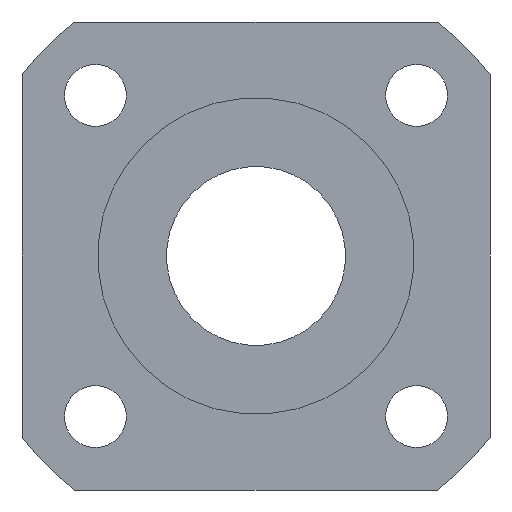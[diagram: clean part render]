
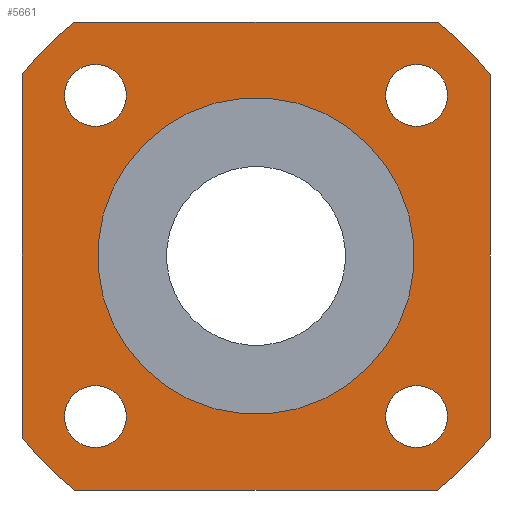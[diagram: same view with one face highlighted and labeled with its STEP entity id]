
A CAD part, left-side view. The second image highlights one B-rep face of the part: STEP entity #5661.
In plain terms, the highlighted planar face has unit normal (-1, 0, 0).
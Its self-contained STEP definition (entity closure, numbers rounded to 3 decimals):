
#109=CIRCLE('',#6005,21.5);
#110=CIRCLE('',#6007,21.5);
#111=CIRCLE('',#6009,21.5);
#121=CIRCLE('',#6024,11.5);
#123=CIRCLE('',#6029,21.5);
#124=CIRCLE('',#6031,2.25);
#125=CIRCLE('',#6032,2.25);
#126=CIRCLE('',#6033,2.25);
#127=CIRCLE('',#6034,2.25);
#334=LINE('',#8997,#1000);
#335=LINE('',#8998,#1001);
#336=LINE('',#8999,#1002);
#337=LINE('',#9000,#1003);
#1000=VECTOR('',#6579,1000.);
#1001=VECTOR('',#6580,1000.);
#1002=VECTOR('',#6581,1000.);
#1003=VECTOR('',#6582,1000.);
#1750=ORIENTED_EDGE('',*,*,#3383,.T.);
#1751=ORIENTED_EDGE('',*,*,#3363,.F.);
#1752=ORIENTED_EDGE('',*,*,#3384,.T.);
#1753=ORIENTED_EDGE('',*,*,#3366,.F.);
#1754=ORIENTED_EDGE('',*,*,#3385,.T.);
#1755=ORIENTED_EDGE('',*,*,#3380,.F.);
#1756=ORIENTED_EDGE('',*,*,#3386,.T.);
#1757=ORIENTED_EDGE('',*,*,#3361,.F.);
#1758=ORIENTED_EDGE('',*,*,#3387,.T.);
#1759=ORIENTED_EDGE('',*,*,#3388,.T.);
#1760=ORIENTED_EDGE('',*,*,#3389,.T.);
#1761=ORIENTED_EDGE('',*,*,#3390,.T.);
#1762=ORIENTED_EDGE('',*,*,#3378,.F.);
#3361=EDGE_CURVE('',#4180,#4181,#109,.T.);
#3363=EDGE_CURVE('',#4182,#4183,#110,.T.);
#3366=EDGE_CURVE('',#4184,#4185,#111,.T.);
#3378=EDGE_CURVE('',#4195,#4195,#121,.F.);
#3380=EDGE_CURVE('',#4197,#4198,#123,.T.);
#3383=EDGE_CURVE('',#4180,#4183,#334,.T.);
#3384=EDGE_CURVE('',#4182,#4185,#335,.T.);
#3385=EDGE_CURVE('',#4184,#4198,#336,.T.);
#3386=EDGE_CURVE('',#4197,#4181,#337,.T.);
#3387=EDGE_CURVE('',#4199,#4199,#124,.T.);
#3388=EDGE_CURVE('',#4200,#4200,#125,.T.);
#3389=EDGE_CURVE('',#4201,#4201,#126,.T.);
#3390=EDGE_CURVE('',#4202,#4202,#127,.T.);
#4180=VERTEX_POINT('',#8945);
#4181=VERTEX_POINT('',#8947);
#4182=VERTEX_POINT('',#8951);
#4183=VERTEX_POINT('',#8952);
#4184=VERTEX_POINT('',#8957);
#4185=VERTEX_POINT('',#8958);
#4195=VERTEX_POINT('',#8985);
#4197=VERTEX_POINT('',#8992);
#4198=VERTEX_POINT('',#8993);
#4199=VERTEX_POINT('',#9002);
#4200=VERTEX_POINT('',#9004);
#4201=VERTEX_POINT('',#9006);
#4202=VERTEX_POINT('',#9008);
#4658=EDGE_LOOP('',(#1750,#1751,#1752,#1753,#1754,#1755,#1756,#1757));
#4659=EDGE_LOOP('',(#1758));
#4660=EDGE_LOOP('',(#1759));
#4661=EDGE_LOOP('',(#1760));
#4662=EDGE_LOOP('',(#1761));
#4663=EDGE_LOOP('',(#1762));
#5058=FACE_BOUND('',#4658,.T.);
#5059=FACE_BOUND('',#4659,.T.);
#5060=FACE_BOUND('',#4660,.T.);
#5061=FACE_BOUND('',#4661,.T.);
#5062=FACE_BOUND('',#4662,.T.);
#5063=FACE_BOUND('',#4663,.T.);
#5403=PLANE('',#6030);
#5661=ADVANCED_FACE('',(#5058,#5059,#5060,#5061,#5062,#5063),#5403,.F.);
#6005=AXIS2_PLACEMENT_3D('',#8946,#6520,#6521);
#6007=AXIS2_PLACEMENT_3D('',#8950,#6525,#6526);
#6009=AXIS2_PLACEMENT_3D('',#8956,#6531,#6532);
#6024=AXIS2_PLACEMENT_3D('',#8984,#6563,#6564);
#6029=AXIS2_PLACEMENT_3D('',#8991,#6573,#6574);
#6030=AXIS2_PLACEMENT_3D('',#8996,#6577,#6578);
#6031=AXIS2_PLACEMENT_3D('',#9001,#6583,#6584);
#6032=AXIS2_PLACEMENT_3D('',#9003,#6585,#6586);
#6033=AXIS2_PLACEMENT_3D('',#9005,#6587,#6588);
#6034=AXIS2_PLACEMENT_3D('',#9007,#6589,#6590);
#6520=DIRECTION('',(1.,0.,0.));
#6521=DIRECTION('',(0.,0.707,-0.707));
#6525=DIRECTION('',(1.,0.,0.));
#6526=DIRECTION('',(0.,0.707,-0.707));
#6531=DIRECTION('',(1.,0.,0.));
#6532=DIRECTION('',(0.,0.707,-0.707));
#6563=DIRECTION('',(1.,0.,0.));
#6564=DIRECTION('',(0.,0.707,-0.707));
#6573=DIRECTION('',(1.,0.,0.));
#6574=DIRECTION('',(0.,0.707,-0.707));
#6577=DIRECTION('',(1.,0.,0.));
#6578=DIRECTION('',(0.,0.707,-0.707));
#6579=DIRECTION('',(0.,0.,1.));
#6580=DIRECTION('',(0.,1.,0.));
#6581=DIRECTION('',(0.,0.,-1.));
#6582=DIRECTION('',(0.,-1.,0.));
#6583=DIRECTION('',(1.,0.,0.));
#6584=DIRECTION('',(0.,0.707,-0.707));
#6585=DIRECTION('',(1.,0.,0.));
#6586=DIRECTION('',(0.,0.707,-0.707));
#6587=DIRECTION('',(1.,0.,0.));
#6588=DIRECTION('',(0.,0.707,-0.707));
#6589=DIRECTION('',(1.,0.,0.));
#6590=DIRECTION('',(0.,0.707,-0.707));
#8945=CARTESIAN_POINT('',(10.,-17.,-13.162));
#8946=CARTESIAN_POINT('',(10.,0.,0.));
#8947=CARTESIAN_POINT('',(10.,-13.162,-17.));
#8950=CARTESIAN_POINT('',(10.,0.,0.));
#8951=CARTESIAN_POINT('',(10.,-13.162,17.));
#8952=CARTESIAN_POINT('',(10.,-17.,13.162));
#8956=CARTESIAN_POINT('',(10.,0.,0.));
#8957=CARTESIAN_POINT('',(10.,17.,13.162));
#8958=CARTESIAN_POINT('',(10.,13.162,17.));
#8984=CARTESIAN_POINT('',(10.,0.,0.));
#8985=CARTESIAN_POINT('',(10.,8.132,-8.132));
#8991=CARTESIAN_POINT('',(10.,0.,0.));
#8992=CARTESIAN_POINT('',(10.,13.162,-17.));
#8993=CARTESIAN_POINT('',(10.,17.,-13.162));
#8996=CARTESIAN_POINT('',(10.,0.,0.));
#8997=CARTESIAN_POINT('',(10.,-17.,17.));
#8998=CARTESIAN_POINT('',(10.,17.,17.));
#8999=CARTESIAN_POINT('',(10.,17.,-17.));
#9000=CARTESIAN_POINT('',(10.,-17.,-17.));
#9001=CARTESIAN_POINT('',(10.,11.667,-11.667));
#9002=CARTESIAN_POINT('',(10.,13.258,-13.258));
#9003=CARTESIAN_POINT('',(10.,-11.667,-11.667));
#9004=CARTESIAN_POINT('',(10.,-10.076,-13.258));
#9005=CARTESIAN_POINT('',(10.,-11.667,11.667));
#9006=CARTESIAN_POINT('',(10.,-10.076,10.076));
#9007=CARTESIAN_POINT('',(10.,11.667,11.667));
#9008=CARTESIAN_POINT('',(10.,13.258,10.076));
